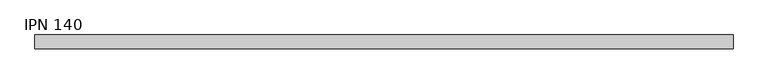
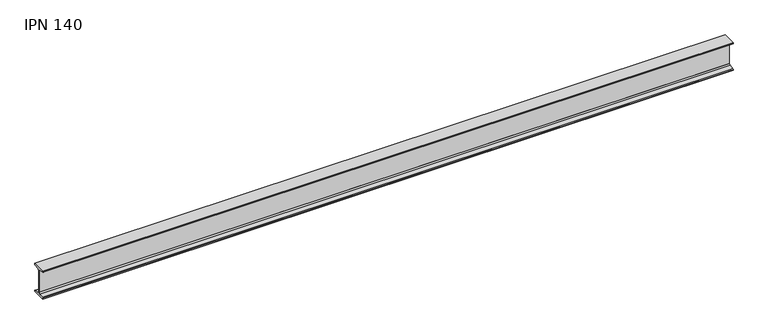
"""IFC4 building model written with IfcOpenShell, lengths in millimetres: beam geometry, IPN - Secciones en I con alas cónicas : IPN 140."""

from ifc_helpers import new_model, si_unit, point, frame, frame_2d, origin, place, context, project, spatial, polyline, circle_curve, trimmed, segment, composite_curve, outline, extrude, source, transform, mapped, element, save


def ipn_140_ba8e37ef(model_context):
    return source(origin(), model_context, "Body", "SweptSolid", [
        extrude(outline(composite_curve([segment(polyline([(33.0, 70.0), (33.0, 66.6671583)]), True, "CONTINUOUS"), segment(trimmed(circle_curve(frame_2d((29.6, 66.6671583)), 3.4), [point((33.0, 66.6671583))], [point((30.0714027, 63.2999964))], False, "CARTESIAN"), True, "CONTINUOUS"), segment(polyline([(30.0714027, 63.2999964), (7.7597073, 60.176359)]), True, "CONTINUOUS"), segment(trimmed(circle_curve(frame_2d((8.55, 54.5314111)), 5.7), [point((7.7597073, 60.176359))], [point((2.85, 54.5314111))], True, "CARTESIAN"), True, "CONTINUOUS"), segment(polyline([(2.85, 54.5314111), (2.85, -54.5314111)]), True, "CONTINUOUS"), segment(trimmed(circle_curve(frame_2d((8.55, -54.5314111)), 5.7), [point((2.85, -54.5314111))], [point((7.7597073, -60.176359))], True, "CARTESIAN"), True, "CONTINUOUS"), segment(polyline([(7.7597073, -60.176359), (30.0714027, -63.2999964)]), True, "CONTINUOUS"), segment(trimmed(circle_curve(frame_2d((29.6, -66.6671583)), 3.4), [point((30.0714027, -63.2999964))], [point((33.0, -66.6671583))], False, "CARTESIAN"), True, "CONTINUOUS"), segment(polyline([(33.0, -66.6671583), (33.0, -70.0), (-33.0, -70.0), (-33.0, -66.6671583)]), True, "CONTINUOUS"), segment(trimmed(circle_curve(frame_2d((-29.6, -66.6671583)), 3.4), [point((-33.0, -66.6671583))], [point((-30.0714027, -63.2999964))], False, "CARTESIAN"), True, "CONTINUOUS"), segment(polyline([(-30.0714027, -63.2999964), (-7.7597073, -60.176359)]), True, "CONTINUOUS"), segment(trimmed(circle_curve(frame_2d((-8.55, -54.5314111)), 5.7), [point((-7.7597073, -60.176359))], [point((-2.85, -54.5314111))], True, "CARTESIAN"), True, "CONTINUOUS"), segment(polyline([(-2.85, -54.5314111), (-2.85, 54.5314111)]), True, "CONTINUOUS"), segment(trimmed(circle_curve(frame_2d((-8.55, 54.5314111)), 5.7), [point((-2.85, 54.5314111))], [point((-7.7597073, 60.176359))], True, "CARTESIAN"), True, "CONTINUOUS"), segment(polyline([(-7.7597073, 60.176359), (-30.0714027, 63.2999964)]), True, "CONTINUOUS"), segment(trimmed(circle_curve(frame_2d((-29.6, 66.6671583)), 3.4), [point((-30.0714027, 63.2999964))], [point((-33.0, 66.6671583))], False, "CARTESIAN"), True, "CONTINUOUS"), segment(polyline([(-33.0, 66.6671583), (-33.0, 70.0), (33.0, 70.0)]), True, "CONTINUOUS")], self_intersect=False)), frame((-1655.0, 0.0, 0.0), z_axis=(1.0, 0.0, 0.0), x_axis=(0.0, 1.0, 0.0)), (0.0, 0.0, 1.0), 3306.0),
    ])


if __name__ == "__main__":
    model = new_model("IFC4")
    model_context = context("Model", 3, world=origin())
    ifc_project = project(units=[si_unit("LENGTHUNIT", "METRE", prefix="MILLI")], contexts=[model_context])
    site = spatial("IfcSite", under=ifc_project)
    building = spatial("IfcBuilding", under=site)
    placement = place(None, origin())
    ipn_140_shape = ipn_140_ba8e37ef(model_context)
    element("IfcBeam", 1, ObjectType="IPN - Secciones en I con alas cónicas : IPN 140", at=placement, inside=building, context=model_context, shape_type="MappedRepresentation", body=[
        mapped(ipn_140_shape, transform((0.0, 0.0, 0.0), x_axis=(1.0, 0.0, 0.0), y_axis=(0.0, 1.0, 0.0), z_axis=(0.0, 0.0, 1.0))),
    ])
    save(model, "model.ifc")
